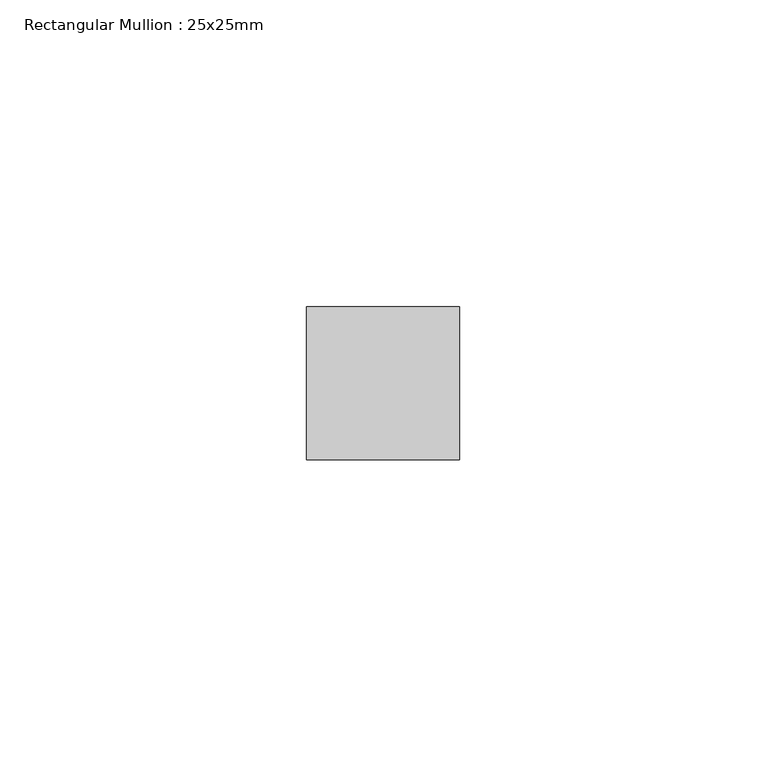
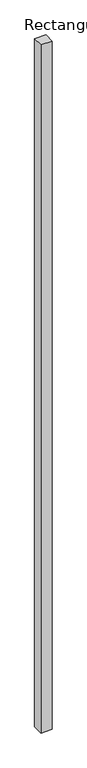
"""IFC4 building model written with IfcOpenShell, lengths in millimetres: member geometry, Rectangular Mullion : 25x25mm."""

from ifc_helpers import new_model, si_unit, frame, origin, place, context, project, spatial, polyline, outline, extrude, source, transform, mapped, element, save


def rectangular_mullion_25x25mm_6ee4613f(model_context):
    return source(origin(), model_context, "Body", "SweptSolid", [
        extrude(outline(polyline([(0.0, 0.5), (0.0, -24.5), (-25.0, -24.5), (-25.0, 0.5), (0.0, 0.5)])), frame((0.0, 0.0, -1635.0), z_axis=(0.0, 0.0, 1.0), x_axis=(1.0, 0.0, 0.0)), (0.0, 0.0, 1.0), 1635.0),
    ])


if __name__ == "__main__":
    model = new_model("IFC4")
    model_context = context("Model", 3, world=origin())
    ifc_project = project(units=[si_unit("LENGTHUNIT", "METRE", prefix="MILLI")], contexts=[model_context])
    site = spatial("IfcSite", under=ifc_project)
    building = spatial("IfcBuilding", under=site)
    placement = place(None, origin())
    rectangular_mullion_25x25mm_shape = rectangular_mullion_25x25mm_6ee4613f(model_context)
    element("IfcMember", 1, ObjectType="Rectangular Mullion : 25x25mm", at=placement, inside=building, context=model_context, shape_type="MappedRepresentation", body=[
        mapped(rectangular_mullion_25x25mm_shape, transform((0.0, 0.0, 0.0), x_axis=(1.0, 0.0, 0.0), y_axis=(0.0, 1.0, 0.0), z_axis=(0.0, 0.0, 1.0))),
    ])
    save(model, "model.ifc")
